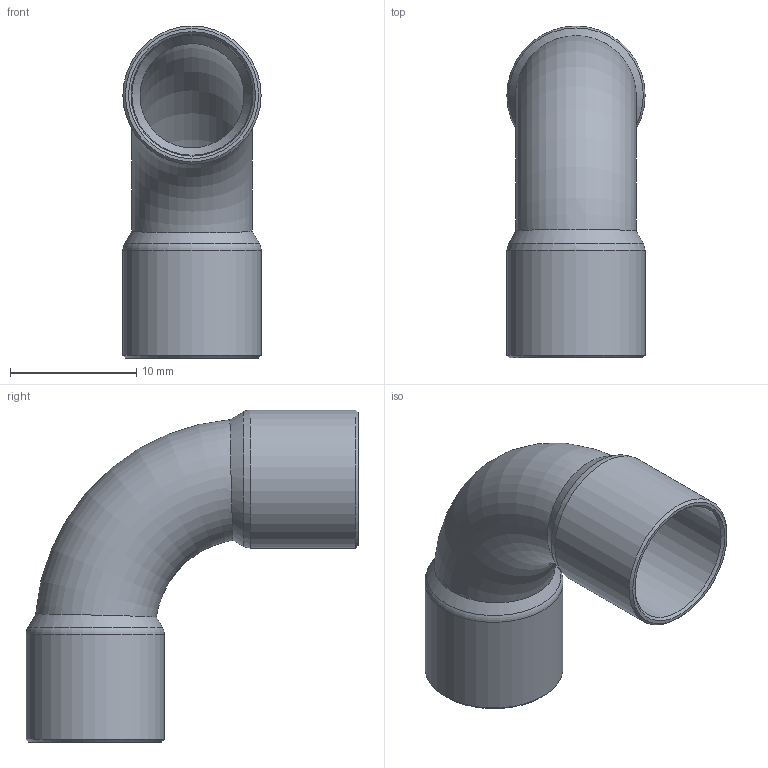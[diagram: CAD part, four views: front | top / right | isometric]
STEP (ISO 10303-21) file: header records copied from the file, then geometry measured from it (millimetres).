
FILE_DESCRIPTION((''),'2;1');
FILE_NAME('G:\SANHA-Ternat\Technik\Management\Bouwmaten + markeringen\z-maattekeningen 3D\29000s\29002A38_3d.stp','2017-07-25T08:52:09',('vdvijverd'),(''),'Autodesk Inventor 2009','Autodesk Inventor 2009','');
FILE_SCHEMA(('AUTOMOTIVE_DESIGN { 1 0 10303 214 1 1 1 1 }'));
Length unit declared in the file: millimetre
Products named in the file (1): 29002A38_3d
Bounding box: 10.95 x 26.27 x 26.27 mm (x, y, z)
Volume: 718.9 mm3; surface area: 2246.6 mm2
Topology: 1 solids, 1 shells, 20 faces, 38 edges, 20 vertices
Faces by surface type: bspline 8, cone 6, torus 3, cylinder 2, plane 1
Full cylindrical faces by diameter (mm): 9.645 x1, 10.945 x1
Entity records: 738 total; most frequent: CARTESIAN_POINT 408, DIRECTION 58, ORIENTED_EDGE 40, EDGE_LOOP 40, AXIS2_PLACEMENT_3D 29, VERTEX_POINT 20, EDGE_CURVE 20, FACE_OUTER_BOUND 20
